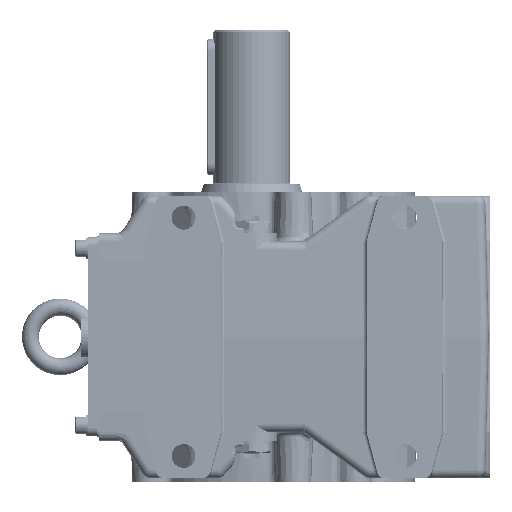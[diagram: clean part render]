
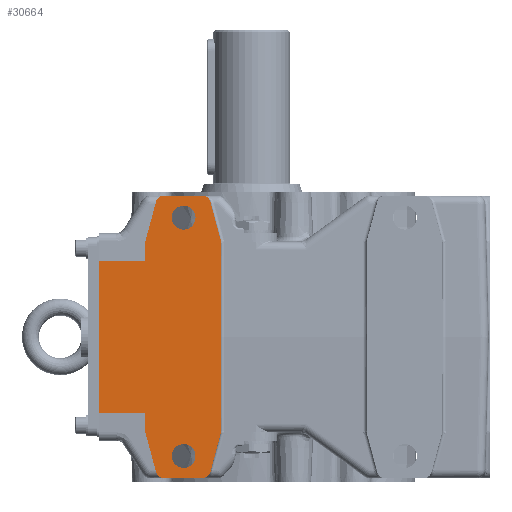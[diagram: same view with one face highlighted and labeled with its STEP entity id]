
A CAD part, left-side view. The second image highlights one B-rep face of the part: STEP entity #30664.
In plain terms, the highlighted planar face has unit normal (-1, 0, 0).
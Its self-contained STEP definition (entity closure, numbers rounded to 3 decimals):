
#17932=CARTESIAN_POINT('',(-90.0,90.0,-44.812));
#17933=VERTEX_POINT('',#17932);
#17940=CARTESIAN_POINT('',(-90.0,90.0,44.812));
#17941=VERTEX_POINT('',#17940);
#17942=CARTESIAN_POINT('',(-90.,90.0,44.812));
#17943=DIRECTION('',(0.0,0.0,-1.0));
#17944=VECTOR('',#17943,89.623);
#17945=LINE('',#17942,#17944);
#17946=EDGE_CURVE('',#17941,#17933,#17945,.T.);
#20214=CARTESIAN_POINT('',(-90.,40.0,-63.0));
#20215=VERTEX_POINT('',#20214);
#20216=CARTESIAN_POINT('',(-90.,40.0,-70.0));
#20217=DIRECTION('',(1.0,0.0,0.0));
#20218=DIRECTION('',(0.0,0.0,1.0));
#20219=AXIS2_PLACEMENT_3D('',#20216,#20217,#20218);
#20220=CIRCLE('',#20219,7.);
#20221=EDGE_CURVE('',#20215,#20215,#20220,.T.);
#20242=CARTESIAN_POINT('',(-90.,40.0,77.0));
#20243=VERTEX_POINT('',#20242);
#20244=CARTESIAN_POINT('',(-90.,40.0,70.0));
#20245=DIRECTION('',(1.0,0.0,0.0));
#20246=DIRECTION('',(0.0,0.0,1.0));
#20247=AXIS2_PLACEMENT_3D('',#20244,#20245,#20246);
#20248=CIRCLE('',#20247,7.);
#20249=EDGE_CURVE('',#20243,#20243,#20248,.T.);
#30466=CARTESIAN_POINT('',(-90.,-15.242,0.735));
#30467=DIRECTION('',(1.0,0.0,0.0));
#30468=DIRECTION('',(0.0,0.0,-1.0));
#30469=AXIS2_PLACEMENT_3D('',#30466,#30467,#30468);
#30470=PLANE('',#30469);
#30471=ORIENTED_EDGE('',*,*,#17946,.T.);
#30472=CARTESIAN_POINT('',(-90.,62.5,-44.812));
#30473=VERTEX_POINT('',#30472);
#30474=CARTESIAN_POINT('',(-90.0,62.5,-44.812));
#30475=DIRECTION('',(0.0,1.0,0.0));
#30476=VECTOR('',#30475,27.5);
#30477=LINE('',#30474,#30476);
#30478=EDGE_CURVE('',#30473,#17933,#30477,.T.);
#30479=ORIENTED_EDGE('',*,*,#30478,.F.);
#30480=CARTESIAN_POINT('',(-90.,62.5,-55.34));
#30481=VERTEX_POINT('',#30480);
#30482=CARTESIAN_POINT('',(-90.,62.5,-55.34));
#30483=DIRECTION('',(0.0,0.0,1.0));
#30484=VECTOR('',#30483,10.529);
#30485=LINE('',#30482,#30484);
#30486=EDGE_CURVE('',#30481,#30473,#30485,.T.);
#30487=ORIENTED_EDGE('',*,*,#30486,.F.);
#30488=CARTESIAN_POINT('',(-90.,62.329,-56.637));
#30489=VERTEX_POINT('',#30488);
#30490=CARTESIAN_POINT('',(-90.,57.5,-55.34));
#30491=DIRECTION('',(1.0,0.0,0.0));
#30492=DIRECTION('',(0.0,0.991,-0.131));
#30493=AXIS2_PLACEMENT_3D('',#30490,#30491,#30492);
#30494=CIRCLE('',#30493,5.);
#30495=EDGE_CURVE('',#30489,#30481,#30494,.T.);
#30496=ORIENTED_EDGE('',*,*,#30495,.F.);
#30497=CARTESIAN_POINT('',(-90.,56.244,-79.297));
#30498=VERTEX_POINT('',#30497);
#30499=CARTESIAN_POINT('',(-90.,56.244,-79.297));
#30500=DIRECTION('',(0.0,0.259,0.966));
#30501=VECTOR('',#30500,23.462);
#30502=LINE('',#30499,#30501);
#30503=EDGE_CURVE('',#30498,#30489,#30502,.T.);
#30504=ORIENTED_EDGE('',*,*,#30503,.F.);
#30505=CARTESIAN_POINT('',(-90.,51.415,-83.));
#30506=VERTEX_POINT('',#30505);
#30507=CARTESIAN_POINT('',(-90.,51.415,-78.));
#30508=DIRECTION('',(1.0,0.0,0.0));
#30509=DIRECTION('',(0.0,0.609,-0.794));
#30510=AXIS2_PLACEMENT_3D('',#30507,#30508,#30509);
#30511=CIRCLE('',#30510,5.);
#30512=EDGE_CURVE('',#30506,#30498,#30511,.T.);
#30513=ORIENTED_EDGE('',*,*,#30512,.F.);
#30514=CARTESIAN_POINT('',(-90.,29.085,-83.));
#30515=VERTEX_POINT('',#30514);
#30516=CARTESIAN_POINT('',(-90.,29.085,-83.));
#30517=DIRECTION('',(0.0,1.0,0.0));
#30518=VECTOR('',#30517,22.331);
#30519=LINE('',#30516,#30518);
#30520=EDGE_CURVE('',#30515,#30506,#30519,.T.);
#30521=ORIENTED_EDGE('',*,*,#30520,.F.);
#30522=CARTESIAN_POINT('',(-90.,24.256,-79.297));
#30523=VERTEX_POINT('',#30522);
#30524=CARTESIAN_POINT('',(-90.,29.085,-78.));
#30525=DIRECTION('',(1.0,0.0,0.0));
#30526=DIRECTION('',(0.0,-0.609,-0.794));
#30527=AXIS2_PLACEMENT_3D('',#30524,#30525,#30526);
#30528=CIRCLE('',#30527,5.0);
#30529=EDGE_CURVE('',#30523,#30515,#30528,.T.);
#30530=ORIENTED_EDGE('',*,*,#30529,.F.);
#30531=CARTESIAN_POINT('',(-90.,18.171,-56.637));
#30532=VERTEX_POINT('',#30531);
#30533=CARTESIAN_POINT('',(-90.0,18.171,-56.637));
#30534=DIRECTION('',(0.0,0.259,-0.966));
#30535=VECTOR('',#30534,23.462);
#30536=LINE('',#30533,#30535);
#30537=EDGE_CURVE('',#30532,#30523,#30536,.T.);
#30538=ORIENTED_EDGE('',*,*,#30537,.F.);
#30539=CARTESIAN_POINT('',(-90.,18.,-55.34));
#30540=VERTEX_POINT('',#30539);
#30541=CARTESIAN_POINT('',(-90.,23.,-55.34));
#30542=DIRECTION('',(1.0,0.0,0.0));
#30543=DIRECTION('',(0.0,-0.991,-0.131));
#30544=AXIS2_PLACEMENT_3D('',#30541,#30542,#30543);
#30545=CIRCLE('',#30544,5.0);
#30546=EDGE_CURVE('',#30540,#30532,#30545,.T.);
#30547=ORIENTED_EDGE('',*,*,#30546,.F.);
#30548=CARTESIAN_POINT('',(-90.,18.,-17.838));
#30549=VERTEX_POINT('',#30548);
#30550=CARTESIAN_POINT('',(-90.0,18.,-17.838));
#30551=DIRECTION('',(0.0,0.0,-1.0));
#30552=VECTOR('',#30551,37.503);
#30553=LINE('',#30550,#30552);
#30554=EDGE_CURVE('',#30549,#30540,#30553,.T.);
#30555=ORIENTED_EDGE('',*,*,#30554,.F.);
#30556=CARTESIAN_POINT('',(-90.,17.945,0.));
#30557=VERTEX_POINT('',#30556);
#30558=CARTESIAN_POINT('',(-90.,16.,-17.838));
#30559=DIRECTION('',(-1.0,0.0,0.0));
#30560=DIRECTION('',(0.0,0.0,1.0));
#30561=AXIS2_PLACEMENT_3D('',#30558,#30559,#30560);
#30562=ELLIPSE('',#30561,76.403,2.0);
#30563=EDGE_CURVE('',#30557,#30549,#30562,.T.);
#30564=ORIENTED_EDGE('',*,*,#30563,.F.);
#30565=CARTESIAN_POINT('',(-90.,18.,17.838));
#30566=VERTEX_POINT('',#30565);
#30567=CARTESIAN_POINT('',(-90.,16.,17.838));
#30568=DIRECTION('',(-1.0,0.0,0.0));
#30569=DIRECTION('',(0.0,0.0,-1.0));
#30570=AXIS2_PLACEMENT_3D('',#30567,#30568,#30569);
#30571=ELLIPSE('',#30570,76.403,2.0);
#30572=EDGE_CURVE('',#30566,#30557,#30571,.T.);
#30573=ORIENTED_EDGE('',*,*,#30572,.F.);
#30574=CARTESIAN_POINT('',(-90.,18.,55.34));
#30575=VERTEX_POINT('',#30574);
#30576=CARTESIAN_POINT('',(-90.0,18.,55.34));
#30577=DIRECTION('',(0.0,0.0,-1.0));
#30578=VECTOR('',#30577,37.503);
#30579=LINE('',#30576,#30578);
#30580=EDGE_CURVE('',#30575,#30566,#30579,.T.);
#30581=ORIENTED_EDGE('',*,*,#30580,.F.);
#30582=CARTESIAN_POINT('',(-90.,18.171,56.637));
#30583=VERTEX_POINT('',#30582);
#30584=CARTESIAN_POINT('',(-90.,23.,55.34));
#30585=DIRECTION('',(1.0,0.0,0.0));
#30586=DIRECTION('',(0.0,-0.991,0.131));
#30587=AXIS2_PLACEMENT_3D('',#30584,#30585,#30586);
#30588=CIRCLE('',#30587,5.0);
#30589=EDGE_CURVE('',#30583,#30575,#30588,.T.);
#30590=ORIENTED_EDGE('',*,*,#30589,.F.);
#30591=CARTESIAN_POINT('',(-90.,24.256,79.297));
#30592=VERTEX_POINT('',#30591);
#30593=CARTESIAN_POINT('',(-90.0,24.256,79.297));
#30594=DIRECTION('',(0.0,-0.259,-0.966));
#30595=VECTOR('',#30594,23.462);
#30596=LINE('',#30593,#30595);
#30597=EDGE_CURVE('',#30592,#30583,#30596,.T.);
#30598=ORIENTED_EDGE('',*,*,#30597,.F.);
#30599=CARTESIAN_POINT('',(-90.,29.085,83.));
#30600=VERTEX_POINT('',#30599);
#30601=CARTESIAN_POINT('',(-90.,29.085,78.));
#30602=DIRECTION('',(1.0,0.0,0.0));
#30603=DIRECTION('',(0.0,-0.609,0.794));
#30604=AXIS2_PLACEMENT_3D('',#30601,#30602,#30603);
#30605=CIRCLE('',#30604,5.0);
#30606=EDGE_CURVE('',#30600,#30592,#30605,.T.);
#30607=ORIENTED_EDGE('',*,*,#30606,.F.);
#30608=CARTESIAN_POINT('',(-90.,51.415,83.));
#30609=VERTEX_POINT('',#30608);
#30610=CARTESIAN_POINT('',(-90.,51.415,83.));
#30611=DIRECTION('',(0.0,-1.0,0.0));
#30612=VECTOR('',#30611,22.331);
#30613=LINE('',#30610,#30612);
#30614=EDGE_CURVE('',#30609,#30600,#30613,.T.);
#30615=ORIENTED_EDGE('',*,*,#30614,.F.);
#30616=CARTESIAN_POINT('',(-90.,56.244,79.297));
#30617=VERTEX_POINT('',#30616);
#30618=CARTESIAN_POINT('',(-90.,51.415,78.));
#30619=DIRECTION('',(1.0,0.0,0.0));
#30620=DIRECTION('',(0.0,0.609,0.794));
#30621=AXIS2_PLACEMENT_3D('',#30618,#30619,#30620);
#30622=CIRCLE('',#30621,5.);
#30623=EDGE_CURVE('',#30617,#30609,#30622,.T.);
#30624=ORIENTED_EDGE('',*,*,#30623,.F.);
#30625=CARTESIAN_POINT('',(-90.,62.329,56.637));
#30626=VERTEX_POINT('',#30625);
#30627=CARTESIAN_POINT('',(-90.,62.329,56.637));
#30628=DIRECTION('',(0.0,-0.259,0.966));
#30629=VECTOR('',#30628,23.462);
#30630=LINE('',#30627,#30629);
#30631=EDGE_CURVE('',#30626,#30617,#30630,.T.);
#30632=ORIENTED_EDGE('',*,*,#30631,.F.);
#30633=CARTESIAN_POINT('',(-90.,62.5,55.34));
#30634=VERTEX_POINT('',#30633);
#30635=CARTESIAN_POINT('',(-90.,57.5,55.34));
#30636=DIRECTION('',(1.0,0.0,0.0));
#30637=DIRECTION('',(0.0,0.991,0.131));
#30638=AXIS2_PLACEMENT_3D('',#30635,#30636,#30637);
#30639=CIRCLE('',#30638,5.0);
#30640=EDGE_CURVE('',#30634,#30626,#30639,.T.);
#30641=ORIENTED_EDGE('',*,*,#30640,.F.);
#30642=CARTESIAN_POINT('',(-90.,62.5,44.812));
#30643=VERTEX_POINT('',#30642);
#30644=CARTESIAN_POINT('',(-90.,62.5,44.812));
#30645=DIRECTION('',(0.0,0.0,1.0));
#30646=VECTOR('',#30645,10.529);
#30647=LINE('',#30644,#30646);
#30648=EDGE_CURVE('',#30643,#30634,#30647,.T.);
#30649=ORIENTED_EDGE('',*,*,#30648,.F.);
#30650=CARTESIAN_POINT('',(-90.0,90.0,44.812));
#30651=DIRECTION('',(0.0,-1.0,0.0));
#30652=VECTOR('',#30651,27.5);
#30653=LINE('',#30650,#30652);
#30654=EDGE_CURVE('',#17941,#30643,#30653,.T.);
#30655=ORIENTED_EDGE('',*,*,#30654,.F.);
#30656=EDGE_LOOP('',(#30471,#30479,#30487,#30496,#30504,#30513,#30521,#30530,#30538,#30547,#30555,#30564,#30573,#30581,#30590,#30598,#30607,#30615,#30624,#30632,#30641,#30649,#30655));
#30657=FACE_OUTER_BOUND('',#30656,.T.);
#30658=ORIENTED_EDGE('',*,*,#20221,.T.);
#30659=EDGE_LOOP('',(#30658));
#30660=FACE_BOUND('',#30659,.T.);
#30661=ORIENTED_EDGE('',*,*,#20249,.T.);
#30662=EDGE_LOOP('',(#30661));
#30663=FACE_BOUND('',#30662,.T.);
#30664=ADVANCED_FACE('',(#30657,#30660,#30663),#30470,.F.);
